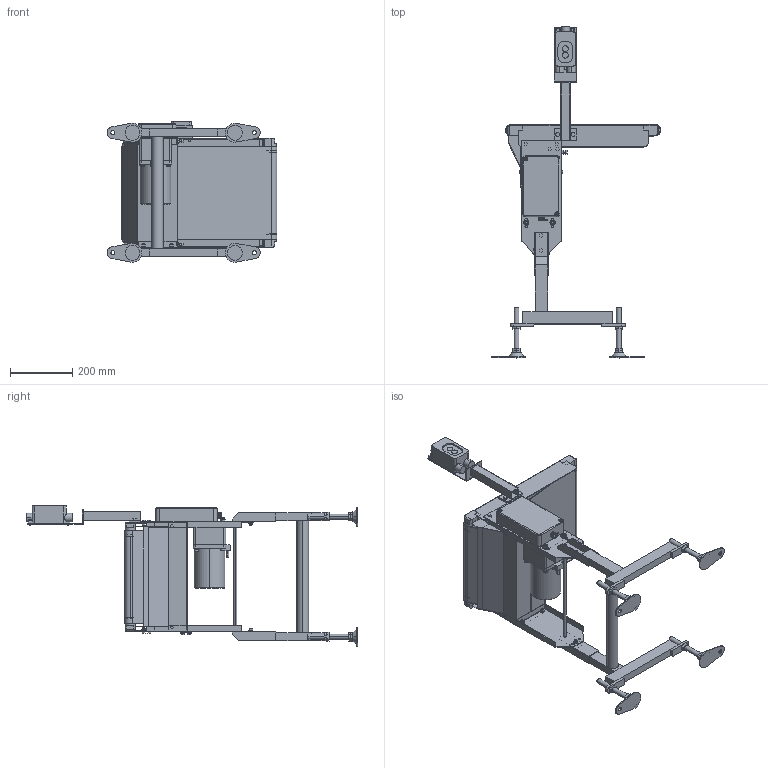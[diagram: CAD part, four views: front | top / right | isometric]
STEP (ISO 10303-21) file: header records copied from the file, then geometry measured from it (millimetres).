
FILE_DESCRIPTION( (''), '2;1');
FILE_NAME ('FSD-EUD-309-300-50-L-K-60.stp','2025-01-30T16:59:08',(''),(''),'spGate 20.6.2 (****-****-****-****)','','');
FILE_SCHEMA (('AUTOMOTIVE_DESIGN'));
Length unit declared in the file: millimetre
Products named in the file (55): NewModel; TEMP_X_T-prt0; TEMP_X_T-prt1; TEMP_X_T-prt2; TEMP_X_T-prt3; TEMP_X_T-prt4; TEMP_X_T-prt5; TEMP_X_T-prt6; TEMP_X_T-prt7; TEMP_X_T-prt8; TEMP_X_T-prt9; TEMP_X_T-prt10; TEMP_X_T-prt11; TEMP_X_T-prt12; TEMP_X_T-prt13; TEMP_X_T-prt14; TEMP_X_T-prt15; TEMP_X_T-prt16; TEMP_X_T-prt17; TEMP_X_T-prt18; TEMP_X_T-prt19; TEMP_X_T-prt20; TEMP_X_T-prt21; TEMP_X_T-prt22; TEMP_X_T-prt23; TEMP_X_T-prt24; TEMP_X_T-prt25; TEMP_X_T-prt26; TEMP_X_T-prt27; TEMP_X_T-prt28; TEMP_X_T-prt29; TEMP_X_T-prt30; TEMP_X_T-prt31; TEMP_X_T-prt32; TEMP_X_T-prt33; TEMP_X_T-prt34; TEMP_X_T-prt35; TEMP_X_T-prt36; TEMP_X_T-prt37; TEMP_X_T-prt38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
Assembly tree (54 placements, depth 2):
  NewModel
    TEMP_X_T-prt0
    TEMP_X_T-prt1
    TEMP_X_T-prt2
    TEMP_X_T-prt3
    TEMP_X_T-prt4
    TEMP_X_T-prt5
    TEMP_X_T-prt6
    TEMP_X_T-prt7
    TEMP_X_T-prt8
    TEMP_X_T-prt9
    TEMP_X_T-prt10
    TEMP_X_T-prt11
    TEMP_X_T-prt12
    TEMP_X_T-prt13
    TEMP_X_T-prt14
    TEMP_X_T-prt15
    TEMP_X_T-prt16
    TEMP_X_T-prt17
    TEMP_X_T-prt18
    TEMP_X_T-prt19
    TEMP_X_T-prt20
    TEMP_X_T-prt21
    TEMP_X_T-prt22
    TEMP_X_T-prt23
    TEMP_X_T-prt24
    TEMP_X_T-prt25
    TEMP_X_T-prt26
    TEMP_X_T-prt27
    TEMP_X_T-prt28
    TEMP_X_T-prt29
    TEMP_X_T-prt30
    TEMP_X_T-prt31
    TEMP_X_T-prt32
    TEMP_X_T-prt33
    TEMP_X_T-prt34
    TEMP_X_T-prt35
    TEMP_X_T-prt36
    TEMP_X_T-prt37
    TEMP_X_T-prt38
    TEMP_X_T-prt39
    TEMP_X_T-prt40
    TEMP_X_T-prt41
    TEMP_X_T-prt42
    TEMP_X_T-prt43
    TEMP_X_T-prt44
    TEMP_X_T-prt45
    TEMP_X_T-prt46
    TEMP_X_T-prt47
    TEMP_X_T-prt48
    TEMP_X_T-prt49
    TEMP_X_T-prt50
    TEMP_X_T-prt51
    TEMP_X_T-prt52
    TEMP_X_T-prt53
Bounding box: 547.68 x 1069.5 x 452.6 mm (x, y, z)
Volume: 13527256 mm3; surface area: 2749916.2 mm2
Topology: 54 solids, 54 shells, 1534 faces, 3733 edges, 2425 vertices
Faces by surface type: plane 1036, cylinder 412, bspline 86
Entity records: 77898 total; most frequent: CARTESIAN_POINT 9900, ORIENTED_EDGE 7450, DIRECTION 7401, COLOUR_RGB 5313, PRESENTATION_STYLE_ASSIGNMENT 5313, STYLED_ITEM 5313, EDGE_CURVE 3725, DRAUGHTING_PRE_DEFINED_CURVE_FONT 3725
